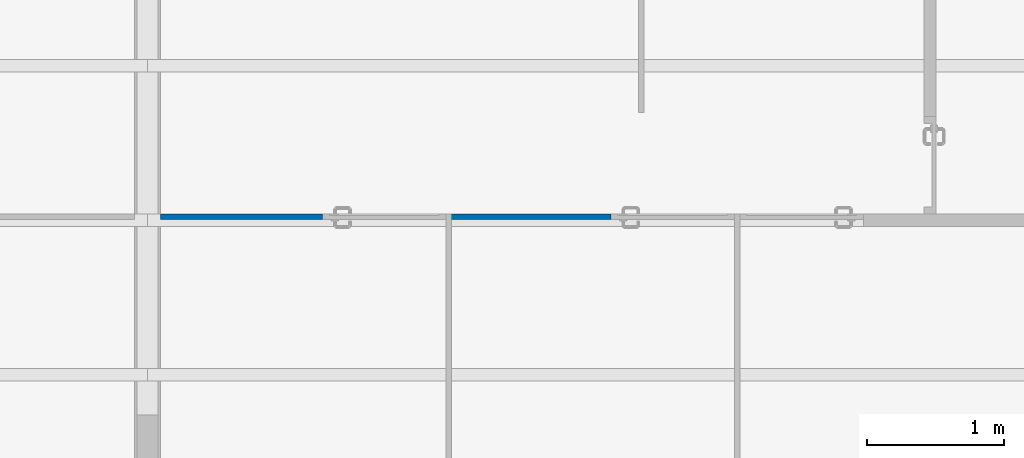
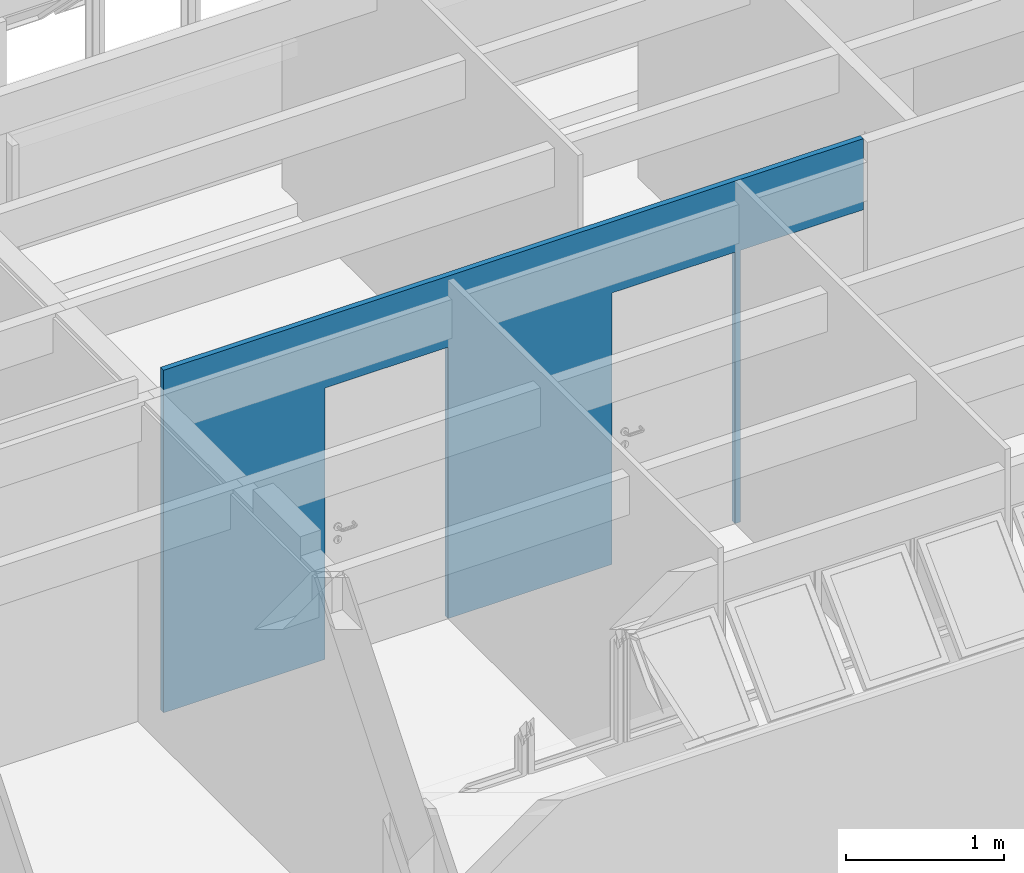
# One storey, part 23 of 40: 1 wall, 3 openings.
"""IFC4 building model written with IfcOpenShell, lengths in millimetres."""

from ifc_helpers import new_model, entity, si_unit, converted_unit, derived_unit, direction, frame, origin_with_axes, origin_2d_with_axis, place, context, subcontext, project, spatial, line, indexed_curve, rectangle, outline, extrude, material, layer, layer_set, layer_usage, type_object, element, save


model = new_model("IFC4")

# Units and contexts
model_context = context("Model", 3, precision=0.01, world=origin_with_axes(), true_north=direction((0.0, 1.0)))
body_context = subcontext(model_context, "Body", "Model", "MODEL_VIEW")
ifc_project = project(units=[si_unit("LENGTHUNIT", "METRE", prefix="MILLI"), si_unit("AREAUNIT", "SQUARE_METRE"), si_unit("VOLUMEUNIT", "CUBIC_METRE"), converted_unit("PLANEANGLEUNIT", "DEGREE", entity("IfcPlaneAngleMeasure", 0.0174532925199), si_unit("PLANEANGLEUNIT", "RADIAN"), dimensions=[0, 0, 0, 0, 0, 0, 0]), converted_unit("TIMEUNIT", "Year", entity("IfcTimeMeasure", 31556926.0), si_unit("TIMEUNIT", "SECOND"), dimensions=[0, 0, 1, 0, 0, 0, 0]), si_unit("MASSUNIT", "GRAM", prefix="KILO"), si_unit("THERMODYNAMICTEMPERATUREUNIT", "DEGREE_CELSIUS"), si_unit("LUMINOUSINTENSITYUNIT", "LUMEN"), si_unit("ENERGYUNIT", "JOULE", prefix="MEGA"), derived_unit("THERMALCONDUCTANCEUNIT", [(si_unit("POWERUNIT", "WATT"), 1), (si_unit("LENGTHUNIT", "METRE"), -1), (si_unit("THERMODYNAMICTEMPERATUREUNIT", "KELVIN"), -1)]), derived_unit("SPECIFICHEATCAPACITYUNIT", [(si_unit("ENERGYUNIT", "JOULE"), 1), (si_unit("MASSUNIT", "GRAM", prefix="KILO"), -1), (si_unit("THERMODYNAMICTEMPERATUREUNIT", "KELVIN"), -1)]), derived_unit("MASSDENSITYUNIT", [(si_unit("MASSUNIT", "GRAM", prefix="KILO"), 1), (si_unit("VOLUMEUNIT", "CUBIC_METRE"), -1)])], contexts=[model_context])

# Site, building, storey
site_placement = place(None, origin_with_axes())
site = spatial("IfcSite", under=ifc_project, at=site_placement, Name="Local", CompositionType="ELEMENT")
building_placement = place(site_placement, origin_with_axes())
building = spatial("IfcBuilding", under=site, at=building_placement, Name="Construção", CompositionType="ELEMENT")
storey_placement = place(building_placement, frame((0.0, 0.0, 5300.0), z_axis=(0.0, 0.0, 1.0), x_axis=(1.0, 0.0, 0.0)))
storey = spatial("IfcBuildingStorey", under=building, at=storey_placement, Name="Terceiro Pavimento", CompositionType="ELEMENT", Elevation=5300.0)

# Wall, openings
ifc_material = material(Name="GENÉRICO - VEDAÇÃO EXTERNA")
ifc_layer = layer(ifc_material, 40.0, ventilated="UNKNOWN", Name="GENÉRICO - VEDAÇÃO EXTERNA")
ifc_layer_set = layer_set([ifc_layer], Name="GENÉRICO - VEDAÇÃO EXTERNA 40")
ifc_layer_usage = layer_usage(ifc_layer_set, "AXIS2", "POSITIVE", 0.0)
wall_type = type_object("IfcWallType", Name="GENÉRICO - VEDAÇÃO EXTERNA 40", PredefinedType="NOTDEFINED")
wall_placement = place(storey_placement, frame((12600.0, 3765.2195667, 0.0), z_axis=(0.0, 0.0, 1.0), x_axis=(-0.99999999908, -4.28841203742e-05, 0.0)))
wall = element("IfcWall", 1, at=wall_placement, inside=storey, type_object=wall_type, material=ifc_layer_usage, Name="APTO10-PAREDE-006", PredefinedType="NOTDEFINED", context=body_context, shape_type="SweptSolid", body=[
    extrude(outline(indexed_curve([(0.0, 0.0), (5120.00000471, 0.0), (5120.00172007, 40.0), (0.000857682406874, 40.0)], segments=[line(1, 2, 3, 4, 1)])), origin_with_axes(), (0.0, 0.0, 1.0), 2650.0),
])
opening_1_placement = place(wall_placement, frame((1390.00000471, 0.0, 0.0), z_axis=(0.0, 0.0, 1.0), x_axis=(1.0, 0.0, 0.0)))
element("IfcOpeningElement", 2, at=opening_1_placement, cuts=wall, Name="APTO10-PORTA-002", context=body_context, shape_type="SweptSolid", body=[
    extrude(rectangle(XDim=900.0, YDim=2100.0, at=origin_2d_with_axis()), frame((0.0, 40.0, 1050.0), z_axis=(0.0, 1.0, 0.0), x_axis=(-1.0, 0.0, 0.0)), (0.0, 0.0, -1.0), 120.0),
])
opening_2_placement = place(wall_placement, frame((450.000004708, 0.0, 0.0), z_axis=(0.0, 0.0, 1.0), x_axis=(1.0, 0.0, 0.0)))
element("IfcOpeningElement", 3, at=opening_2_placement, cuts=wall, Name="APTO10-PORTA-001", context=body_context, shape_type="SweptSolid", body=[
    extrude(rectangle(XDim=900.0, YDim=2100.0, at=origin_2d_with_axis()), frame((0.0, 40.0, 1050.0), z_axis=(0.0, -1.0, 0.0), x_axis=(1.0, 0.0, 0.0)), (0.0, 0.0, 1.0), 120.0),
])
opening_3_placement = place(wall_placement, frame((3490.00000471, 0.0, 0.0), z_axis=(0.0, 0.0, 1.0), x_axis=(1.0, 0.0, 0.0)))
element("IfcOpeningElement", 4, at=opening_3_placement, cuts=wall, Name="APTO10-PORTA-000", context=body_context, shape_type="SweptSolid", body=[
    extrude(rectangle(XDim=900.0, YDim=2100.0, at=origin_2d_with_axis()), frame((0.0, 40.0, 1050.0), z_axis=(0.0, 1.0, 0.0), x_axis=(-1.0, 0.0, 0.0)), (0.0, 0.0, -1.0), 120.0),
])

save(model, "model.ifc")
